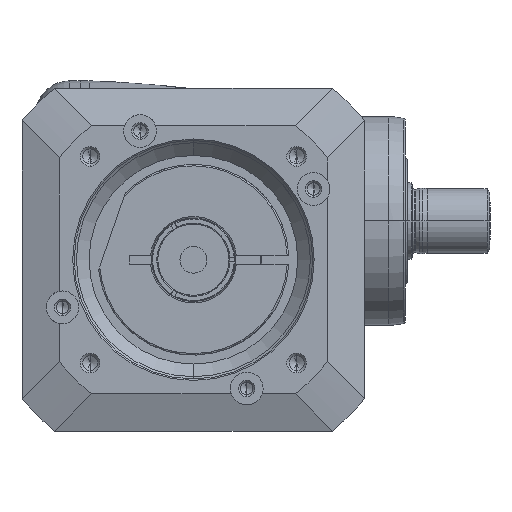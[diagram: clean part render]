
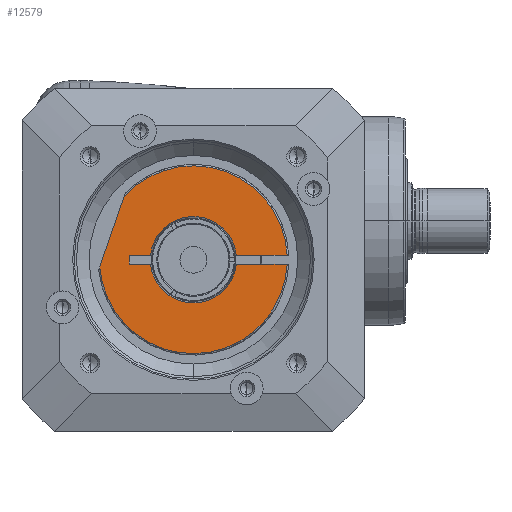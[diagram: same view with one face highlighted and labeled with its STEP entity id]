
A CAD part, front view. The second image highlights one B-rep face of the part: STEP entity #12579.
In plain terms, the highlighted planar face has unit normal (0, -1, 0) as drawn and (-1, 0, 0) by its records, which use the part's own axes.
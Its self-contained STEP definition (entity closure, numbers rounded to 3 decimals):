
#12016=DIRECTION('',(0.,0.946,0.326));
#12017=VECTOR('',#12016,25.063);
#12018=CARTESIAN_POINT('',(-13.,-21.258,23.246));
#12019=LINE('',#12018,#12017);
#12020=DIRECTION('',(0.,0.,1.));
#12021=VECTOR('',#12020,17.042);
#12022=CARTESIAN_POINT('',(-13.,-1.5,-31.464));
#12023=LINE('',#12022,#12021);
#12024=DIRECTION('',(0.,0.,1.));
#12025=VECTOR('',#12024,7.078);
#12026=CARTESIAN_POINT('',(-13.,-1.5,14.422));
#12027=LINE('',#12026,#12025);
#12028=DIRECTION('',(0.,-1.,0.));
#12029=VECTOR('',#12028,3.);
#12030=CARTESIAN_POINT('',(-13.,1.5,21.5));
#12031=LINE('',#12030,#12029);
#12032=DIRECTION('',(0.,0.,1.));
#12033=VECTOR('',#12032,7.078);
#12034=CARTESIAN_POINT('',(-13.,1.5,14.422));
#12035=LINE('',#12034,#12033);
#12036=DIRECTION('',(0.,0.,1.));
#12037=VECTOR('',#12036,17.042);
#12038=CARTESIAN_POINT('',(-13.,1.5,-31.464));
#12039=LINE('',#12038,#12037);
#12054=CARTESIAN_POINT('',(-13.,0.,0.));
#12055=DIRECTION('',(-1.,0.,0.));
#12056=DIRECTION('',(0.,0.077,0.997));
#12057=AXIS2_PLACEMENT_3D('',#12054,#12055,#12056);
#12100=CARTESIAN_POINT('',(-13.,0.,0.));
#12101=DIRECTION('',(-1.,0.,0.));
#12102=DIRECTION('',(0.,-0.048,-0.999));
#12103=AXIS2_PLACEMENT_3D('',#12100,#12101,#12102);
#12127=CARTESIAN_POINT('',(-13.,0.,0.));
#12128=DIRECTION('',(1.,0.,0.));
#12129=DIRECTION('',(0.,-0.103,0.995));
#12130=AXIS2_PLACEMENT_3D('',#12127,#12128,#12129);
#12139=CARTESIAN_POINT('',(-13.,0.,0.));
#12140=DIRECTION('',(1.,0.,0.));
#12141=DIRECTION('',(0.,0.103,-0.995));
#12142=AXIS2_PLACEMENT_3D('',#12139,#12140,#12141);
#12462=CARTESIAN_POINT('',(-13.,-1.5,-31.464));
#12463=CARTESIAN_POINT('',(-13.,-1.5,-14.422));
#12464=VERTEX_POINT('',#12462);
#12465=VERTEX_POINT('',#12463);
#12466=CARTESIAN_POINT('',(-13.,1.5,-31.464));
#12467=CARTESIAN_POINT('',(-13.,1.5,-14.422));
#12468=VERTEX_POINT('',#12466);
#12469=VERTEX_POINT('',#12467);
#12512=CARTESIAN_POINT('',(-13.,1.5,21.5));
#12513=CARTESIAN_POINT('',(-13.,-1.5,21.5));
#12514=VERTEX_POINT('',#12512);
#12515=VERTEX_POINT('',#12513);
#12516=CARTESIAN_POINT('',(-13.,-1.5,14.422));
#12517=VERTEX_POINT('',#12516);
#12518=CARTESIAN_POINT('',(-13.,1.5,14.422));
#12519=VERTEX_POINT('',#12518);
#12536=CARTESIAN_POINT('',(-13.,-21.258,23.246));
#12537=CARTESIAN_POINT('',(-13.,2.44,31.405));
#12538=VERTEX_POINT('',#12536);
#12539=VERTEX_POINT('',#12537);
#12552=CARTESIAN_POINT('',(-13.,0.,0.));
#12553=DIRECTION('',(1.,0.,0.));
#12554=DIRECTION('',(0.,-1.,0.));
#12555=AXIS2_PLACEMENT_3D('',#12552,#12553,#12554);
#12556=PLANE('',#12555);
#12558=ORIENTED_EDGE('',*,*,#12557,.F.);
#12560=ORIENTED_EDGE('',*,*,#12559,.F.);
#12562=ORIENTED_EDGE('',*,*,#12561,.T.);
#12564=ORIENTED_EDGE('',*,*,#12563,.F.);
#12566=ORIENTED_EDGE('',*,*,#12565,.T.);
#12568=ORIENTED_EDGE('',*,*,#12567,.F.);
#12570=ORIENTED_EDGE('',*,*,#12569,.F.);
#12572=ORIENTED_EDGE('',*,*,#12571,.F.);
#12574=ORIENTED_EDGE('',*,*,#12573,.F.);
#12576=ORIENTED_EDGE('',*,*,#12575,.F.);
#12577=EDGE_LOOP('',(#12558,#12560,#12562,#12564,#12566,#12568,#12570,#12572,
#12574,#12576));
#12578=FACE_OUTER_BOUND('',#12577,.F.);
#12579=ADVANCED_FACE('',(#12578),#12556,.F.);
#12058=CIRCLE('',#12057,31.5);
#12104=CIRCLE('',#12103,31.5);
#12131=CIRCLE('',#12130,14.5);
#12143=CIRCLE('',#12142,14.5);
#12557=EDGE_CURVE('',#12538,#12539,#12019,.T.);
#12559=EDGE_CURVE('',#12464,#12538,#12104,.T.);
#12561=EDGE_CURVE('',#12464,#12465,#12023,.T.);
#12563=EDGE_CURVE('',#12517,#12465,#12131,.T.);
#12565=EDGE_CURVE('',#12517,#12515,#12027,.T.);
#12567=EDGE_CURVE('',#12514,#12515,#12031,.T.);
#12569=EDGE_CURVE('',#12519,#12514,#12035,.T.);
#12571=EDGE_CURVE('',#12469,#12519,#12143,.T.);
#12573=EDGE_CURVE('',#12468,#12469,#12039,.T.);
#12575=EDGE_CURVE('',#12539,#12468,#12058,.T.);
